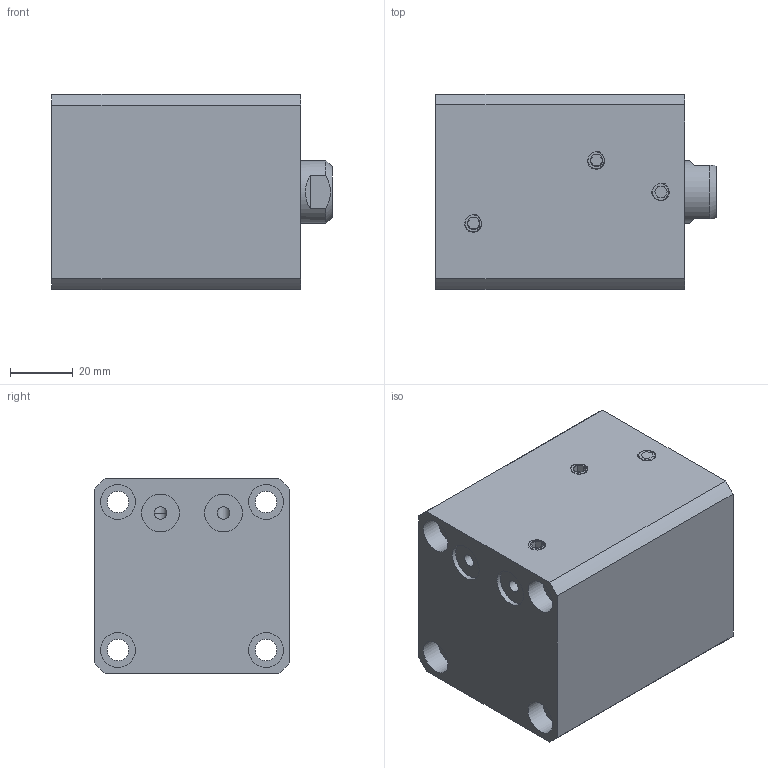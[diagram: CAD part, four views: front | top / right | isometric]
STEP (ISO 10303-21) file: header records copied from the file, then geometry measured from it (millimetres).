
FILE_DESCRIPTION(/* description */ (''),/* implementation_level */ '2;1');
FILE_NAME(/* name */ 'CHTB-sdmb32x25n.stp',/* time_stamp */ '2022-04-29T17:12:44+08:00',/* author */ (''),/* organization */ (''),/* preprocessor_version */ 'ST-DEVELOPER v16.7',/* originating_system */ 'SIEMENS PLM Software NX 12.0',/* authorisation */ '');
FILE_SCHEMA (('AUTOMOTIVE_DESIGN { 1 0 10303 214 3 1 1 1 }'));
Length unit declared in the file: millimetre
Products named in the file (1): CHTB-sdmb32x25n
Bounding box: 89 x 62 x 62 mm (x, y, z)
Volume: 243356.8 mm3; surface area: 61362.1 mm2
Topology: 5 solids, 6 shells, 587 faces, 1626 edges, 1096 vertices
Faces by surface type: plane 332, extrusion 115, cylinder 67, bspline 44, cone 17, torus 12
Full cylindrical faces by diameter (mm): 3 x2, 4 x4, 6.8 x4, 10 x7, 11 x8, 12 x2, 20 x2, 24.5 x1, 26 x2, 32 x4, 40 x1
Entity records: 36800 total; most frequent: CARTESIAN_POINT 20504, ORIENTED_EDGE 3060, DIRECTION 2119, EDGE_CURVE 1530, VERTEX_POINT 1058, VECTOR 1039, LINE 924, EDGE_LOOP 693
